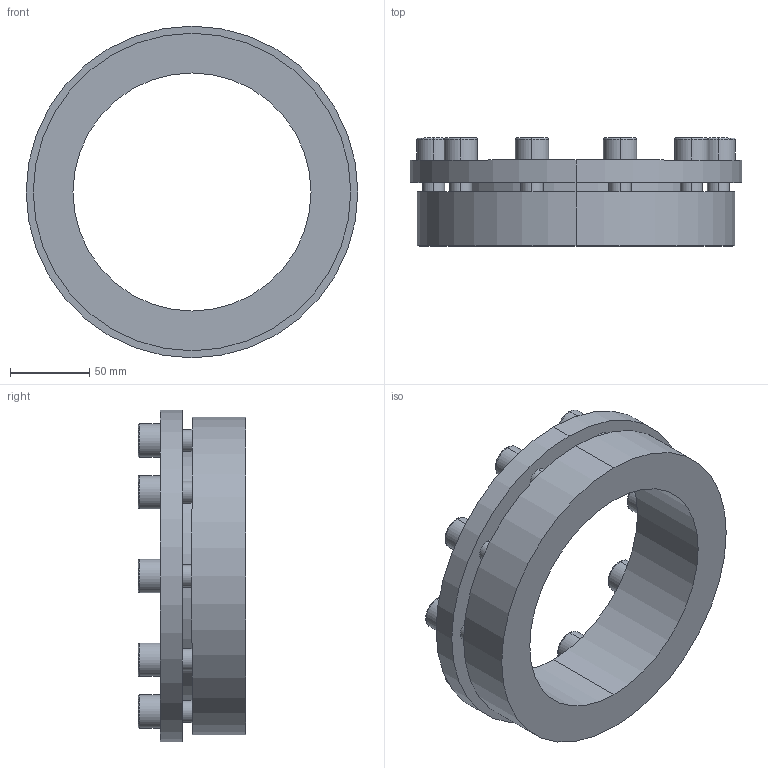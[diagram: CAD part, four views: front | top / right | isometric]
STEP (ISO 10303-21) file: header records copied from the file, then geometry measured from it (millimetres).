
FILE_DESCRIPTION (( 'STEP AP203' ), '1' );
FILE_NAME ('PL-H6 150-200.STEP', '2021-10-23T01:39:16', ( '' ), ( '' ), 'SwSTEP 2.0', 'SolidWorks 2018', '' );
FILE_SCHEMA (( 'CONFIG_CONTROL_DESIGN' ));
Length unit declared in the file: millimetre
Products named in the file (1): PL-H6 150-200
Bounding box: 209 x 68 x 209 mm (x, y, z)
Volume: 763676.2 mm3; surface area: 126327.2 mm2
Topology: 1 solids, 1 shells, 152 faces, 364 edges, 236 vertices
Faces by surface type: plane 84, cylinder 48, torus 20
Entity records: 4545 total; most frequent: DIRECTION 806, CARTESIAN_POINT 753, ORIENTED_EDGE 728, EDGE_CURVE 364, AXIS2_PLACEMENT_3D 289, VERTEX_POINT 236, LINE 228, VECTOR 228
